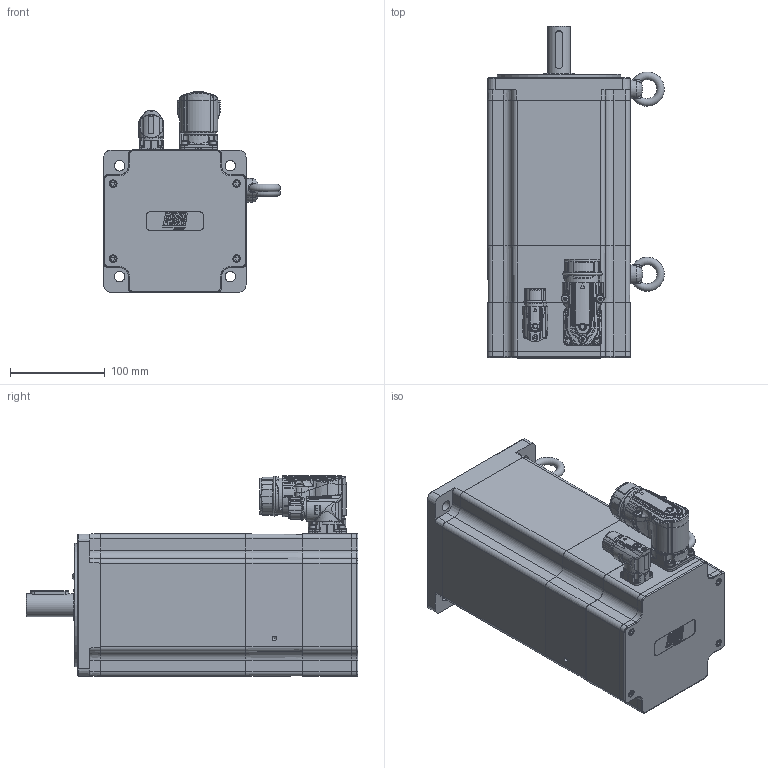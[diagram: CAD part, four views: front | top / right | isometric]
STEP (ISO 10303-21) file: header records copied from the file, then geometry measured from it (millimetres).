
FILE_DESCRIPTION(/* description */ ('Unknown'),/* implementation_level */ '2;1');
FILE_NAME(/* name */ 'TC4-150.6B.xx.x.3.A1.1.x.G3.00.00 Q0B754',/* time_stamp */ '2026-03-06T14:31:20+01:00',/* author */ ('Unknown'),/* organization */ ('Unknown'),/* preprocessor_version */ 'ST-DEVELOPER v19.4',/* originating_system */ 'Solid Edge',/* authorisation */ 'Unknown');
FILE_SCHEMA (('AUTOMOTIVE_DESIGN {1 0 10303 214 3 1 1}'));
Products named in the file (16): Q0B754 6B FRENO M1 VUOTO; 003155002229; 005113000600; 005321000040; 005911000252; 007117000452; 003103040225; 005911000223; 003251040619; 005911000205; Coperchio campana TC4-150; 007117000454; 005119002043; 005911000185; 003151003170; 003003200233
Assembly tree (28 placements, depth 2):
  Q0B754 6B FRENO M1 VUOTO
    003155002229
    005113000600
    005321000040  x2
    005911000252  x4
    007117000452
    003103040225
    005911000223  x4
    003251040619
    005911000205  x4
    Coperchio campana TC4-150
    007117000454
    005119002043
    005911000185  x4
    003151003170
    003003200233
Bounding box: 185.99 x 349.5 x 211.46 mm (x, y, z)
Volume: 2204359.5 mm3; surface area: 593487.4 mm2
Topology: 28 solids, 30 shells, 3481 faces, 8598 edges, 5304 vertices
Faces by surface type: plane 1238, bspline 758, cylinder 711, cone 332, torus 318, sphere 124
Full cylindrical faces by diameter (mm): 0.5 x1, 1 x17, 1.2 x17, 2 x4, 2.013 x4, 2.459 x2, 2.5 x4, 3 x5, 3.2 x1, 3.242 x16, 3.6 x5, 4 x11, 4.134 x8, 4.2 x1, 4.5 x9, 4.7 x4, 4.917 x12, 5 x6, 5.4 x1, 5.5 x9, 5.9 x1, 6 x3, 6.647 x2, 7 x8, 8 x7, 8.4 x1, 8.5 x4, 9 x4, 10 x5, 11 x4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
Entity records: 157383 total; most frequent: CARTESIAN_POINT 65581, ORIENTED_EDGE 14946, DIRECTION 12404, EDGE_CURVE 7473, VERTEX_POINT 4899, AXIS2_PLACEMENT_3D 4863, FACE_BOUND 4084, EDGE_LOOP 4061
